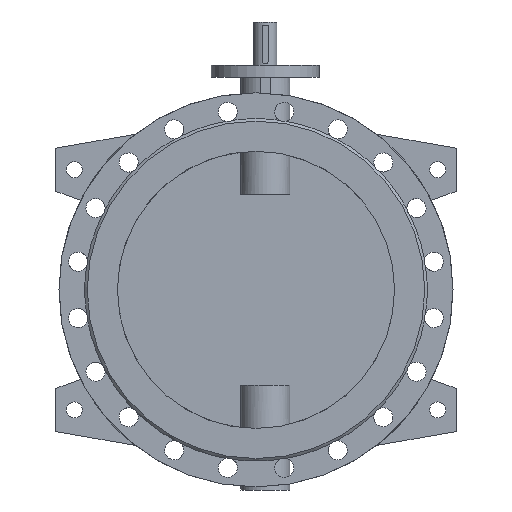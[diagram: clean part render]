
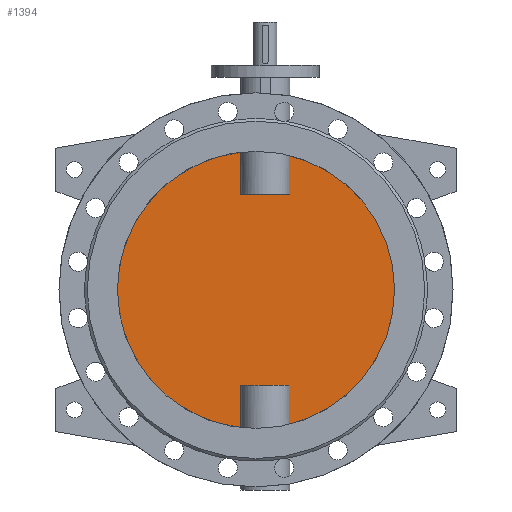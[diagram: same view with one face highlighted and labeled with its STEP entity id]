
A CAD part, front view. The second image highlights one B-rep face of the part: STEP entity #1394.
In plain terms, the highlighted planar face has unit normal (0, -1, 0).
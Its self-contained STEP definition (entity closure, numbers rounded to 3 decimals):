
#1394=ADVANCED_FACE('',(#2864),#2866,.F.);
#2864=FACE_BOUND('',#2865,.T.);
#2865=EDGE_LOOP('',(#3933,#3934,#3935,#3936,#3937,#3938,#3939,#3940));
#2866=PLANE('',#2867);
#2867=AXIS2_PLACEMENT_3D('',#2868,#2869,#2870);
#2868=CARTESIAN_POINT('',(0.,-5.,0.));
#2869=DIRECTION('',(0.,1.,0.));
#2870=DIRECTION('',(1.,0.,0.));
#3933=ORIENTED_EDGE('',*,*,#4478,.T.);
#3934=ORIENTED_EDGE('',*,*,#4484,.T.);
#3935=ORIENTED_EDGE('',*,*,#4485,.T.);
#3936=ORIENTED_EDGE('',*,*,#4486,.T.);
#3937=ORIENTED_EDGE('',*,*,#4480,.T.);
#3938=ORIENTED_EDGE('',*,*,#4487,.T.);
#3939=ORIENTED_EDGE('',*,*,#4488,.T.);
#3940=ORIENTED_EDGE('',*,*,#4489,.T.);
#4478=EDGE_CURVE('',#5341,#5342,#5343,.F.);
#4480=EDGE_CURVE('',#5346,#5344,#5347,.F.);
#4484=EDGE_CURVE('',#5342,#5353,#5354,.T.);
#4485=EDGE_CURVE('',#5353,#5355,#5356,.F.);
#4486=EDGE_CURVE('',#5355,#5346,#5357,.F.);
#4487=EDGE_CURVE('',#5344,#5358,#5359,.F.);
#4488=EDGE_CURVE('',#5358,#5360,#5361,.F.);
#4489=EDGE_CURVE('',#5360,#5341,#5362,.T.);
#5341=VERTEX_POINT('',#10367);
#5342=VERTEX_POINT('',#10368);
#5343=CIRCLE('',#10369,225.);
#5344=VERTEX_POINT('',#10373);
#5346=VERTEX_POINT('',#10459);
#5347=CIRCLE('',#10460,225.);
#5353=VERTEX_POINT('',#10583);
#5354=LINE('',#10584,#10585);
#5355=VERTEX_POINT('',#10587);
#5356=LINE('',#10588,#10589);
#5357=LINE('',#10591,#10592);
#5358=VERTEX_POINT('',#10594);
#5359=LINE('',#10595,#10596);
#5360=VERTEX_POINT('',#10598);
#5361=LINE('',#10599,#10600);
#5362=LINE('',#10602,#10603);
#10367=CARTESIAN_POINT('',(54.686,-5.,-218.253));
#10368=CARTESIAN_POINT('',(54.686,-5.,218.253));
#10369=AXIS2_PLACEMENT_3D('',#10370,#10371,#10372);
#10370=CARTESIAN_POINT('',(0.,-5.,0.));
#10371=DIRECTION('',(0.,1.,0.));
#10372=DIRECTION('',(0.243,0.,0.97));
#10373=CARTESIAN_POINT('',(-24.686,-5.,-223.642));
#10459=CARTESIAN_POINT('',(-24.686,-5.,223.642));
#10460=AXIS2_PLACEMENT_3D('',#10461,#10462,#10463);
#10461=CARTESIAN_POINT('',(0.,-5.,0.));
#10462=DIRECTION('',(0.,1.,0.));
#10463=DIRECTION('',(-0.11,0.,-0.994));
#10583=CARTESIAN_POINT('',(54.686,-5.,155.));
#10584=CARTESIAN_POINT('',(54.686,-5.,218.253));
#10585=VECTOR('',#10586,1.);
#10586=DIRECTION('',(0.,0.,-1.));
#10587=CARTESIAN_POINT('',(-24.686,-5.,155.));
#10588=CARTESIAN_POINT('',(-24.686,-5.,155.));
#10589=VECTOR('',#10590,1.);
#10590=DIRECTION('',(1.,0.,0.));
#10591=CARTESIAN_POINT('',(-24.686,-5.,223.642));
#10592=VECTOR('',#10593,1.);
#10593=DIRECTION('',(0.,0.,-1.));
#10594=CARTESIAN_POINT('',(-24.686,-5.,-155.));
#10595=CARTESIAN_POINT('',(-24.686,-5.,-155.));
#10596=VECTOR('',#10597,1.);
#10597=DIRECTION('',(0.,0.,-1.));
#10598=CARTESIAN_POINT('',(54.686,-5.,-155.));
#10599=CARTESIAN_POINT('',(54.686,-5.,-155.));
#10600=VECTOR('',#10601,1.);
#10601=DIRECTION('',(-1.,0.,0.));
#10602=CARTESIAN_POINT('',(54.686,-5.,-155.));
#10603=VECTOR('',#10604,1.);
#10604=DIRECTION('',(0.,0.,-1.));
